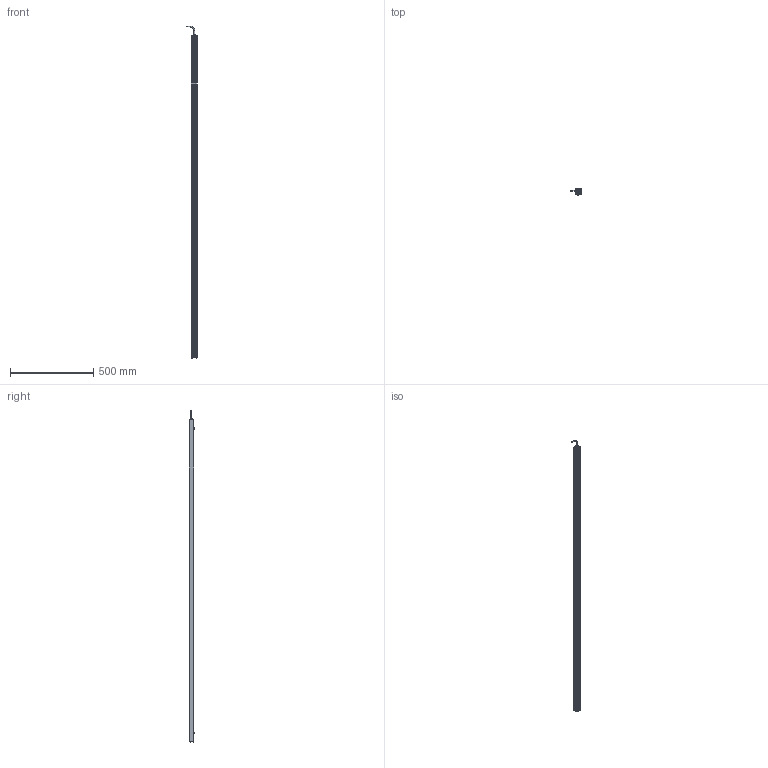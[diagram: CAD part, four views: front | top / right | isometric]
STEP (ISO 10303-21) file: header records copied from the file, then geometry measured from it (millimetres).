
FILE_DESCRIPTION (( 'STEP AP214' ), '1' );
FILE_NAME ('AL150XXXX_AL150444.stp', '2021-04-29T15:42:05', ( '' ), ( '' ), 'SwSTEP 2.0', 'SolidWorks 2018', '' );
FILE_SCHEMA (( 'AUTOMOTIVE_DESIGN' ));
Length unit declared in the file: inch
Products named in the file (12): 150-03-006-XXXX_150-03-006-444; 092408_TRUNCATED; 150-01-005-XXX_150-01-005-444; CHM6x8_91460A312; 1157 (no strap); AL150XXXX_AL150444; Part1^AL150XXXX; HN-M6_90592A016; 116-02-006; 116-02-007; 093145_93701A253; Part2^AL150XXXX
Assembly tree (18 placements, depth 2):
  AL150XXXX_AL150444
    150-01-005-XXX_150-01-005-444
    116-02-006
    093145_93701A253  x8
    HN-M6_90592A016  x2
    CHM6x8_91460A312  x2
    150-03-006-XXXX_150-03-006-444
    116-02-007
    1157 (no strap)
    092408_TRUNCATED
  Part1^AL150XXXX
  Part2^AL150XXXX
Bounding box: 60.68 x 33.84 x 1993.32 mm (x, y, z)
Volume: 599040.4 mm3; surface area: 631911.3 mm2
Topology: 26 solids, 26 shells, 1306 faces, 3436 edges, 2127 vertices
Faces by surface type: cylinder 805, cone 249, plane 153, torus 59, bspline 32, sphere 8
Entity records: 18285 total; most frequent: CARTESIAN_POINT 6069, ORIENTED_EDGE 2496, DIRECTION 2311, EDGE_CURVE 1248, AXIS2_PLACEMENT_3D 881, VERTEX_POINT 800, LINE 549, VECTOR 549
